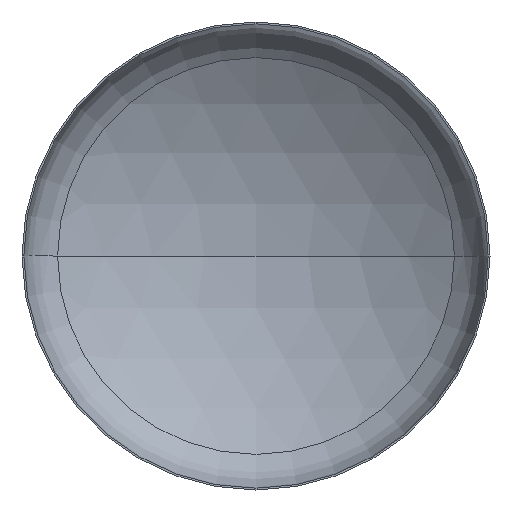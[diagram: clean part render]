
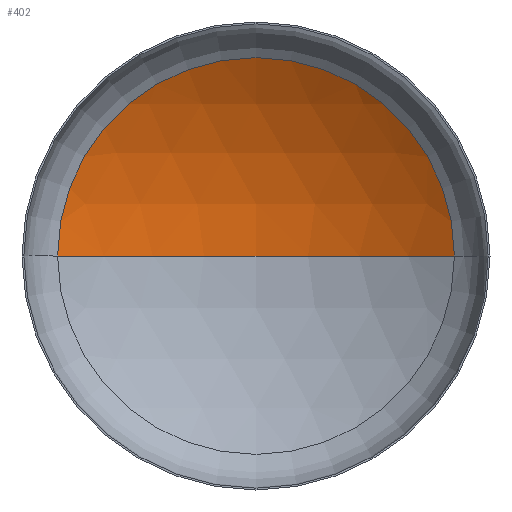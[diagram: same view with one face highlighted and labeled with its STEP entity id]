
A CAD part, front view. The second image highlights one B-rep face of the part: STEP entity #402.
In plain terms, the highlighted spherical face has radius 2240 mm.
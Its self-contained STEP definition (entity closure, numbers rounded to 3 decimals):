
#1 = AXIS2_PLACEMENT_3D ( 'NONE', #187, #358, #213 ) ;
#2 = VERTEX_POINT ( 'NONE', #208 ) ;
#11 = AXIS2_PLACEMENT_3D ( 'NONE', #262, #39, #288 ) ;
#17 = AXIS2_PLACEMENT_3D ( 'NONE', #354, #210, #372 ) ;
#39 = DIRECTION ( 'NONE',  ( 0., 0., 1. ) ) ;
#46 = ORIENTED_EDGE ( 'NONE', *, *, #336, .T. ) ;
#61 = VERTEX_POINT ( 'NONE', #197 ) ;
#89 = VERTEX_POINT ( 'NONE', #284 ) ;
#92 = ORIENTED_EDGE ( 'NONE', *, *, #322, .T. ) ;
#96 = ORIENTED_EDGE ( 'NONE', *, *, #323, .F. ) ;
#107 = EDGE_LOOP ( 'NONE', ( #96, #92, #46 ) ) ;
#128 = FACE_OUTER_BOUND ( 'NONE', #107, .T. ) ;
#164 = DIRECTION ( 'NONE',  ( -1., 0., 0. ) ) ;
#187 = CARTESIAN_POINT ( 'NONE',  ( 0., 404.684, 0. ) ) ;
#197 = CARTESIAN_POINT ( 'NONE',  ( 0., 744.937, 0. ) ) ;
#198 = SPHERICAL_SURFACE ( 'NONE', #274, 2240. ) ;
#208 = CARTESIAN_POINT ( 'NONE',  ( -1186.829, 404.684, 0. ) ) ;
#210 = DIRECTION ( 'NONE',  ( 0., 0., -1. ) ) ;
#213 = DIRECTION ( 'NONE',  ( 1., 0., 0. ) ) ;
#234 = CIRCLE ( 'NONE', #17, 2240. ) ;
#248 = CIRCLE ( 'NONE', #11, 2240. ) ;
#262 = CARTESIAN_POINT ( 'NONE',  ( 0., -1495.063, 0. ) ) ;
#274 = AXIS2_PLACEMENT_3D ( 'NONE', #403, #359, #164 ) ;
#284 = CARTESIAN_POINT ( 'NONE',  ( 1186.829, 404.684, 0. ) ) ;
#288 = DIRECTION ( 'NONE',  ( 1., 0., 0. ) ) ;
#297 = CIRCLE ( 'NONE', #1, 1186.829 ) ;
#322 = EDGE_CURVE ( 'NONE', #61, #89, #234, .T. ) ;
#323 = EDGE_CURVE ( 'NONE', #61, #2, #248, .T. ) ;
#336 = EDGE_CURVE ( 'NONE', #89, #2, #297, .T. ) ;
#354 = CARTESIAN_POINT ( 'NONE',  ( 0., -1495.063, 0. ) ) ;
#358 = DIRECTION ( 'NONE',  ( 0., -1., 0. ) ) ;
#359 = DIRECTION ( 'NONE',  ( 0., 0., -1. ) ) ;
#372 = DIRECTION ( 'NONE',  ( -1., 0., 0. ) ) ;
#402 = ADVANCED_FACE ( 'NONE', ( #128 ), #198, .F. ) ;
#403 = CARTESIAN_POINT ( 'NONE',  ( 0., -1495.063, 0. ) ) ;
